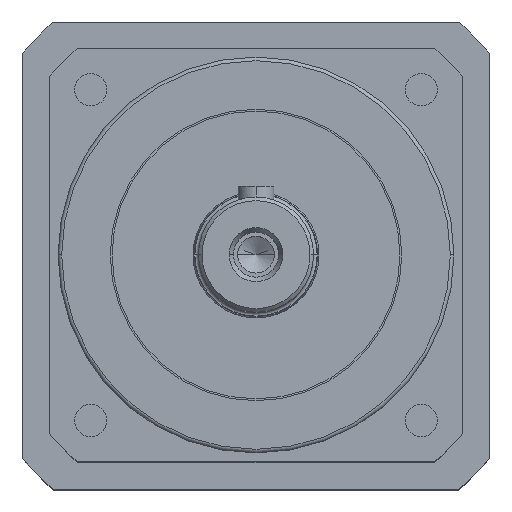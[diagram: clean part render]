
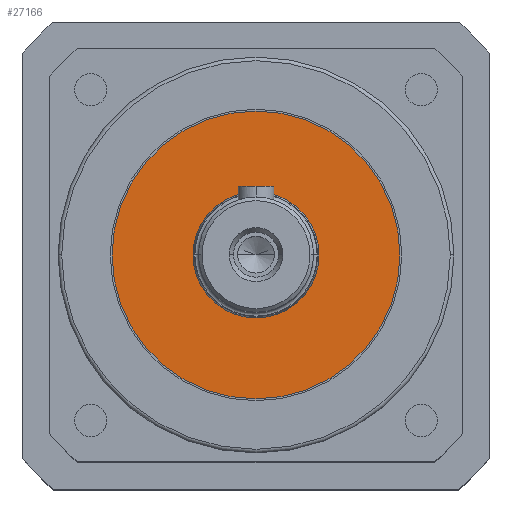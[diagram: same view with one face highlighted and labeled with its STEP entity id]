
A CAD part, top view. The second image highlights one B-rep face of the part: STEP entity #27166.
In plain terms, the highlighted planar face has unit normal (0, 0, 1).
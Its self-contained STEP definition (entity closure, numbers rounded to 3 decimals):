
#3119 = DIRECTION ( 'NONE',  ( 0., 0., 1. ) ) ;
#3662 = FACE_BOUND ( 'NONE', #44682, .T. ) ;
#3895 = DIRECTION ( 'NONE',  ( 0., 0., 1. ) ) ;
#4225 = DIRECTION ( 'NONE',  ( 0., 0., 1. ) ) ;
#4996 = CARTESIAN_POINT ( 'NONE',  ( 0.879, -42.725, 282.5 ) ) ;
#8096 = AXIS2_PLACEMENT_3D ( 'NONE', #49694, #19948, #46030 ) ;
#9796 = EDGE_CURVE ( 'NONE', #31564, #49178, #17296, .T. ) ;
#10096 = EDGE_CURVE ( 'NONE', #34994, #20000, #39723, .T. ) ;
#10528 = ORIENTED_EDGE ( 'NONE', *, *, #47113, .F. ) ;
#11041 = ORIENTED_EDGE ( 'NONE', *, *, #10096, .T. ) ;
#15366 = CARTESIAN_POINT ( 'NONE',  ( 0.879, 37.275, 282.5 ) ) ;
#16019 = CARTESIAN_POINT ( 'NONE',  ( 0.879, -2.725, 282.5 ) ) ;
#16332 = DIRECTION ( 'NONE',  ( 1., 0., 0. ) ) ;
#17296 = CIRCLE ( 'NONE', #27204, 17.5 ) ;
#19948 = DIRECTION ( 'NONE',  ( 0., 0., 1. ) ) ;
#20000 = VERTEX_POINT ( 'NONE', #15366 ) ;
#27166 = ADVANCED_FACE ( 'NONE', ( #33948, #3662 ), #37333, .T. ) ;
#27204 = AXIS2_PLACEMENT_3D ( 'NONE', #51401, #4225, #16332 ) ;
#28153 = AXIS2_PLACEMENT_3D ( 'NONE', #47614, #31056, #34701 ) ;
#31056 = DIRECTION ( 'NONE',  ( 0., 0., 1. ) ) ;
#31564 = VERTEX_POINT ( 'NONE', #47851 ) ;
#33212 = CIRCLE ( 'NONE', #8096, 40. ) ;
#33364 = DIRECTION ( 'NONE',  ( 0., -1., 0. ) ) ;
#33948 = FACE_OUTER_BOUND ( 'NONE', #43941, .T. ) ;
#34701 = DIRECTION ( 'NONE',  ( 1., 0., 0. ) ) ;
#34994 = VERTEX_POINT ( 'NONE', #4996 ) ;
#35250 = AXIS2_PLACEMENT_3D ( 'NONE', #16019, #3119, #45779 ) ;
#37333 = PLANE ( 'NONE',  #35250 ) ;
#38928 = EDGE_CURVE ( 'NONE', #20000, #34994, #33212, .T. ) ;
#39199 = ORIENTED_EDGE ( 'NONE', *, *, #9796, .F. ) ;
#39723 = CIRCLE ( 'NONE', #46898, 40. ) ;
#43941 = EDGE_LOOP ( 'NONE', ( #11041, #46194 ) ) ;
#44275 = CIRCLE ( 'NONE', #28153, 17.5 ) ;
#44682 = EDGE_LOOP ( 'NONE', ( #39199, #10528 ) ) ;
#45779 = DIRECTION ( 'NONE',  ( 1., 0., 0. ) ) ;
#46030 = DIRECTION ( 'NONE',  ( 0., -1., 0. ) ) ;
#46194 = ORIENTED_EDGE ( 'NONE', *, *, #38928, .T. ) ;
#46898 = AXIS2_PLACEMENT_3D ( 'NONE', #50774, #3895, #33364 ) ;
#47113 = EDGE_CURVE ( 'NONE', #49178, #31564, #44275, .T. ) ;
#47614 = CARTESIAN_POINT ( 'NONE',  ( 0.879, -2.725, 282.5 ) ) ;
#47851 = CARTESIAN_POINT ( 'NONE',  ( -16.621, -2.725, 282.5 ) ) ;
#49178 = VERTEX_POINT ( 'NONE', #52604 ) ;
#49694 = CARTESIAN_POINT ( 'NONE',  ( 0.879, -2.725, 282.5 ) ) ;
#50774 = CARTESIAN_POINT ( 'NONE',  ( 0.879, -2.725, 282.5 ) ) ;
#51401 = CARTESIAN_POINT ( 'NONE',  ( 0.879, -2.725, 282.5 ) ) ;
#52604 = CARTESIAN_POINT ( 'NONE',  ( 18.379, -2.725, 282.5 ) ) ;
